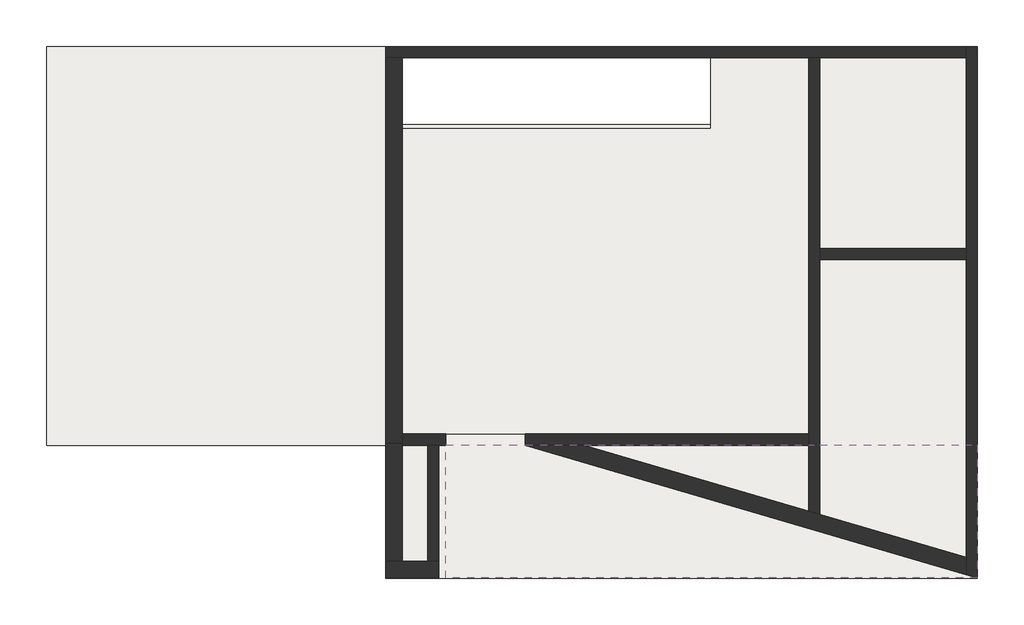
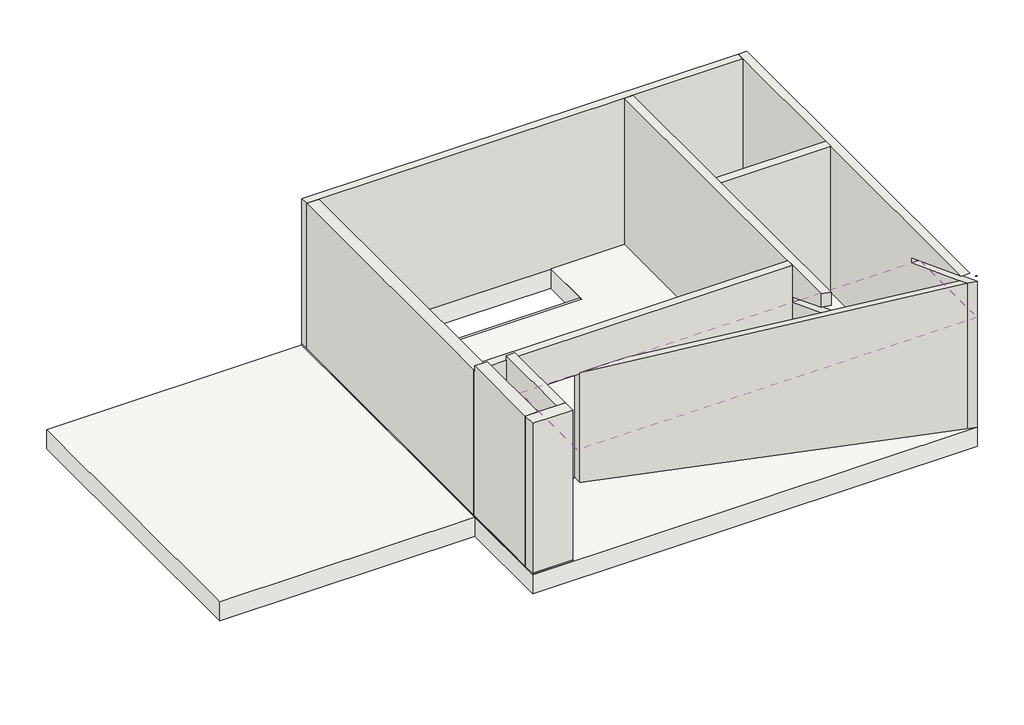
# One storey: 10 walls, 2 proxies, 2 slabs, 1 roof.
"""IFC4 building model written with IfcOpenShell, lengths in millimetres."""

from ifc_helpers import new_model, si_unit, frame, origin, place, context, project, spatial, polyline, outline, extrude, faceted_brep, element, save

model = new_model("IFC4")

# Units and contexts
model_context = context("Model", 3, world=origin())
ifc_project = project(units=[si_unit("LENGTHUNIT", "METRE", prefix="MILLI")], contexts=[model_context])

# Site, building, storey
site = spatial("IfcSite", under=ifc_project)
building = spatial("IfcBuilding", under=site)
storey = spatial("IfcBuildingStorey", under=building, Name="PÁV. SUPERIOR", Elevation=3300.0)

# Proxies
placement = place(None, origin())
element("IfcBuildingElementProxy", 1, Name="FRISO 01", ObjectType="FRISO 01", at=placement, inside=storey, context=model_context, shape_type="SweptSolid", body=[
    extrude(outline(polyline([(-8440.3900469, -5233.9118273), (-8425.3900469, -5218.9118273), (-7655.3900469, -5218.9118273), (-7640.3900469, -5233.9118273), (-8440.3900469, -5233.9118273)])), frame((0.0, 0.0, 3300.0), z_axis=(0.0, 0.0, 1.0), x_axis=(1.0, 0.0, 0.0)), (0.0, 0.0, 1.0), 30.0),
    extrude(outline(polyline([(-7640.3900469, -5233.9118273), (-7655.3900469, -5218.9118273), (-7655.3900469, -3233.9118273), (-7640.3900469, -3233.9118273), (-7640.3900469, -5233.9118273)])), frame((0.0, 0.0, 3300.0), z_axis=(0.0, 0.0, 1.0), x_axis=(1.0, 0.0, 0.0)), (0.0, 0.0, 1.0), 30.0),
])
element("IfcBuildingElementProxy", 2, Name="FRISO 01", ObjectType="FRISO 01", at=placement, inside=storey, context=model_context, shape_type="SweptSolid", body=[
    extrude(outline(polyline([(-8425.3900469, -5218.9118273), (-8440.3900469, -5233.9118273), (-8440.3900469, -3203.9118273), (-8425.3900469, -3203.9118273), (-8425.3900469, -5218.9118273)])), frame((0.0, 0.0, 3300.0), z_axis=(0.0, 0.0, 1.0), x_axis=(1.0, 0.0, 0.0)), (0.0, 0.0, 1.0), 30.0),
    extrude(outline(polyline([(-8425.3900469, -3203.9118273), (-8440.3900469, -3203.9118273), (-8440.3900469, 2766.0881727), (-8425.3900469, 2766.0881727), (-8425.3900469, -3203.9118273)])), frame((0.0, 0.0, 3300.0), z_axis=(0.0, 0.0, 1.0), x_axis=(1.0, 0.0, 0.0)), (0.0, 0.0, 1.0), 30.0),
])

# Roof
element("IfcRoof", 3, ObjectType="Telha Termoacústica", at=placement, inside=storey, context=model_context, shape_type="Brep", body=[
    faceted_brep([(-7541.5118355, -5233.9118273, 6500.0), (-7541.5118355, -3233.9118273, 5730.0), (-7541.5118355, -3233.9118273, 5622.8447388), (-7541.5118355, -5233.9118273, 6392.8447388), (458.4881645, -5233.9118273, 6500.0), (458.4881645, -5233.9118273, 6392.8447388), (458.4881645, -5232.888062, 6392.4505892), (458.4881645, -3233.9118273, 5622.8447388), (458.4881645, -3233.9118273, 5730.0), (458.4881645, -4974.1715676, 6400.0), (458.4881645, -5222.323709, 6400.0), (458.4881645, -5222.323709, 6495.5385744), (458.4881645, -5232.888062, 6499.6058503), (422.5568971, -5222.323709, 6495.5385744), (-7540.3900469, -5222.323709, 6495.5385744), (-7540.3900469, -4974.1715676, 6400.0), (288.4881645, -4974.1715676, 6400.0), (288.4881645, -3233.9118273, 5730.0), (-1911.5118355, -3233.9118273, 5730.0), (-2081.5118355, -3233.9118273, 5730.0), (-6340.3900469, -3233.9118273, 5622.8447388), (-5454.1047463, -3233.9118273, 5622.8447388), (-2081.5118355, -3233.9118273, 5622.8447388), (-1911.5118355, -3233.9118273, 5622.8447388), (288.4881645, -3233.9118273, 5622.8447388), (-7540.3900469, -5222.323709, 6400.0)], [[[0, 1, 2, 3]], [[4, 5, 6, 7, 8, 9, 10, 11, 12]], [[1, 0, 4, 12, 11, 13, 14, 15, 16, 9, 8, 17, 18, 19]], [[5, 4, 0, 3]], [[7, 6, 5, 3, 2, 20, 21, 22, 23, 24]], [[8, 7, 24, 23, 22, 21, 20, 2, 1, 19, 18, 17]], [[25, 10, 9, 16, 15]], [[10, 25, 14, 13, 11]], [[25, 15, 14]]]),
])

# Slabs
element("IfcSlab", 4, ObjectType="Piso Interno - 20cm", at=placement, inside=storey, context=model_context, shape_type="Brep", body=[
    faceted_brep([(458.4881645, 2766.0881727, 2900.0), (458.4881645, -3168.0556256, 2900.0), (458.4881645, -5233.9118273, 2900.0), (-8440.3900469, -5233.9118273, 2900.0), (-8440.3900469, -3233.9118273, 2900.0), (-13541.5118355, -3233.9118273, 2900.0), (-13541.5118355, -3218.9118273, 2900.0), (-13541.5118355, 2596.0881727, 2900.0), (-13541.5118355, 2766.0881727, 2900.0), (288.4881645, 2766.0881727, 2900.0), (-8190.3900469, 1596.0881727, 2900.0), (-3721.5118355, 1596.0881727, 2900.0), (-3551.5118355, 1596.0881727, 2900.0), (-3551.5118355, 2596.0881727, 2900.0), (-8190.3900469, 2596.0881727, 2900.0), (458.4881645, 2766.0881727, 3300.0), (288.4881645, 2766.0881727, 3300.0), (-8425.3900469, 2766.0881727, 3300.0), (-13541.5118355, 2766.0881727, 3300.0), (-13541.5118355, -3233.9118273, 3300.0), (-8440.3900469, -3233.9118273, 3300.0), (-8440.3900469, -5233.9118273, 3300.0), (458.4881645, -5233.9118273, 3300.0), (458.4881645, -5232.888062, 3300.0), (-8190.3900469, 1596.0881727, 3300.0), (-8190.3900469, 2596.0881727, 3300.0), (-3551.5118355, 2596.0881727, 3300.0), (-3551.5118355, 1596.0881727, 3300.0), (-3551.5118355, 1596.0881727, 3100.0), (-3551.5118355, 2596.0881727, 3100.0)], [[[0, 1, 2, 3, 4, 5, 6, 7, 8, 9], [10, 11, 12, 13, 14]], [[15, 16, 17, 18, 19, 20, 21, 22, 23], [24, 25, 26, 27]], [[2, 1, 0, 15, 23, 22]], [[3, 2, 22, 21]], [[4, 3, 21, 20]], [[0, 9, 8, 18, 17, 16, 15]], [[5, 4, 20, 19]], [[8, 7, 6, 5, 19, 18]], [[12, 11, 10, 24, 27, 28]], [[13, 12, 28, 27, 26, 29]], [[14, 13, 29, 26, 25]], [[10, 14, 25, 24]]]),
])
element("IfcSlab", 5, ObjectType="Porcelanato - 1cm", at=placement, inside=storey, context=model_context, shape_type="SweptSolid", body=[
    extrude(outline(polyline([(-3551.5118355, 1531.0881727), (-3551.5118355, 2596.0881727), (288.4881645, 2596.0881727), (288.4881645, -4922.323709), (-1911.5118355, -4275.4893961), (-1911.5118355, -3063.9118273), (-8190.3900469, -3063.9118273), (-8190.3900469, 1531.0881727), (-3551.5118355, 1531.0881727)])), frame((0.0, 0.0, 3300.0), z_axis=(0.0, 0.0, 1.0), x_axis=(1.0, 0.0, 0.0)), (0.0, 0.0, 1.0), 10.0),
])

# Walls
element("IfcWall", 6, ObjectType="Parede Interna - 17 cm - Pintura", at=placement, inside=storey, context=model_context, shape_type="Brep", body=[
    faceted_brep([(-6340.3900469, -3233.9118273, 3300.0), (-5454.1047463, -3233.9118273, 3300.0), (-2081.5118355, -3233.9118273, 3300.0), (-2081.5118355, -3233.9118273, 5622.8447388), (-2081.5118355, -3233.9118273, 5730.0), (-2081.5118355, -3233.9118273, 6400.0), (-7540.3900469, -3233.9118273, 6400.0), (-7810.3900469, -3233.9118273, 6400.0), (-8190.3900469, -3233.9118273, 6400.0), (-8190.3900469, -3233.9118273, 3300.0), (-7810.3900469, -3233.9118273, 3300.0), (-7655.3900469, -3233.9118273, 3300.0), (-7540.3900469, -3233.9118273, 3300.0), (-7540.3900469, -3233.9118273, 5600.0), (-6340.3900469, -3233.9118273, 5600.0), (-2081.5118355, -3063.9118273, 3300.0), (-6340.3900469, -3063.9118273, 3300.0), (-6340.3900469, -3063.9118273, 5600.0), (-7540.3900469, -3063.9118273, 5600.0), (-7540.3900469, -3063.9118273, 3300.0), (-8190.3900469, -3063.9118273, 3300.0), (-8190.3900469, -3063.9118273, 6400.0), (-2081.5118355, -3063.9118273, 6400.0), (-8190.3900469, -3203.9118273, 3300.0)], [[[0, 1, 2, 3, 4, 5, 6, 7, 8, 9, 10, 11, 12, 13, 14]], [[15, 16, 17, 18, 19, 20, 21, 22]], [[2, 1, 0, 16, 15]], [[12, 11, 10, 9, 23, 20, 19]], [[14, 17, 16, 0]], [[17, 14, 13, 18]], [[18, 13, 12, 19]], [[8, 7, 6, 5, 22, 21]], [[20, 23, 9, 8, 21]], [[2, 15, 22, 5, 4, 3]]]),
])
element("IfcWall", 7, ObjectType="Parede Interna - 17 cm - Pintura", at=placement, inside=storey, context=model_context, shape_type="Brep", body=[
    faceted_brep([(458.4881645, -5232.888062, 3300.0), (458.4881645, 2766.0881727, 3300.0), (458.4881645, 2766.0881727, 6400.0), (458.4881645, -4974.1715676, 6400.0), (458.4881645, -3233.9118273, 5730.0), (458.4881645, -3233.9118273, 5622.8447388), (458.4881645, -5232.888062, 6392.4505892), (288.4881645, 2766.0881727, 3300.0), (288.4881645, 2596.0881727, 3300.0), (288.4881645, -273.9118273, 3300.0), (288.4881645, -443.9118273, 3300.0), (288.4881645, -4922.323709, 3300.0), (288.4881645, -5182.9054105, 3300.0), (288.4881645, -5182.9054105, 6373.2072683), (288.4881645, -4922.5257296, 6272.9610912), (288.4881645, -3233.9118273, 5622.8447388), (288.4881645, -3233.9118273, 5730.0), (288.4881645, -4974.1715676, 6400.0), (288.4881645, -443.9118273, 6400.0), (288.4881645, -273.9118273, 6400.0), (288.4881645, 2596.0881727, 6400.0), (288.4881645, 2766.0881727, 6400.0)], [[[0, 1, 2, 3, 4, 5, 6]], [[7, 8, 9, 10, 11, 12, 13, 14, 15, 16, 17, 18, 19, 20, 21]], [[1, 0, 12, 11, 10, 9, 8, 7]], [[1, 7, 21, 2]], [[12, 0, 6, 13]], [[16, 4, 3, 17]], [[5, 15, 14, 13, 6]], [[4, 16, 15, 5]], [[3, 2, 21, 20, 19, 18, 17]]]),
    faceted_brep([(458.4881645, -5232.888062, 6500.0), (458.4881645, -5232.888062, 6499.6058503), (458.4881645, -5222.323709, 6495.5385744), (458.4881645, -5222.323709, 6500.0), (422.5568971, -5222.323709, 6500.0), (422.5568971, -5222.323709, 6495.5385744)], [[[0, 1, 2, 3]], [[0, 3, 4]], [[1, 0, 4, 5]], [[2, 1, 5]], [[3, 2, 5, 4]]]),
])
element("IfcWall", 8, ObjectType="Parede Interna - 17 cm - Pintura", at=placement, inside=storey, context=model_context, shape_type="Brep", body=[
    faceted_brep([(288.4881645, 2766.0881727, 3300.0), (-8425.3900469, 2766.0881727, 3300.0), (-8425.3900469, 2766.0881727, 3330.0), (-8440.3900469, 2766.0881727, 3330.0), (-8440.3900469, 2766.0881727, 6400.0), (288.4881645, 2766.0881727, 6400.0), (-8425.3900469, 2596.0881727, 3300.0), (-8190.3900469, 2596.0881727, 3300.0), (-3551.5118355, 2596.0881727, 3300.0), (-2081.5118355, 2596.0881727, 3300.0), (-1911.5118355, 2596.0881727, 3300.0), (288.4881645, 2596.0881727, 3300.0), (288.4881645, 2596.0881727, 6400.0), (-1911.5118355, 2596.0881727, 6400.0), (-2081.5118355, 2596.0881727, 6400.0), (-8190.3900469, 2596.0881727, 6400.0), (-8440.3900469, 2596.0881727, 6400.0), (-8440.3900469, 2596.0881727, 3330.0), (-8425.3900469, 2596.0881727, 3330.0)], [[[0, 1, 2, 3, 4, 5]], [[6, 7, 8, 9, 10, 11, 12, 13, 14, 15, 16, 17, 18]], [[0, 11, 10, 9, 8, 7, 6, 1]], [[11, 0, 5, 12]], [[3, 17, 16, 4]], [[5, 4, 16, 15, 14, 13, 12]], [[18, 2, 1, 6]], [[2, 18, 17, 3]]]),
])
element("IfcWall", 9, ObjectType="Parede Interna - 17 cm - Pintura", at=placement, inside=storey, context=model_context, shape_type="Brep", body=[
    faceted_brep([(-7640.3900469, -3233.9118273, 6500.0), (-7640.3900469, -4983.9118273, 6500.0), (-7640.3900469, -4983.9118273, 3330.0), (-7640.3900469, -3233.9118273, 3330.0), (-7640.3900469, -3233.9118273, 6400.0), (-7810.3900469, -3233.9118273, 3300.0), (-7810.3900469, -4983.9118273, 3300.0), (-7810.3900469, -4983.9118273, 6400.0), (-7810.3900469, -4983.9118273, 6500.0), (-7810.3900469, -3233.9118273, 6500.0), (-7810.3900469, -3233.9118273, 6400.0), (-7655.3900469, -3233.9118273, 3300.0), (-7655.3900469, -4983.9118273, 3300.0), (-7655.3900469, -4983.9118273, 3330.0), (-7655.3900469, -3233.9118273, 3330.0)], [[[0, 1, 2, 3, 4]], [[5, 6, 7, 8, 9, 10]], [[6, 5, 11, 12]], [[1, 0, 9, 8]], [[1, 8, 7, 6, 12, 13, 2]], [[13, 14, 3, 2]], [[14, 13, 12, 11]], [[9, 0, 4, 3, 14, 11, 5, 10]]]),
])
element("IfcWall", 10, ObjectType="Parede Interna - 17 cm - Pintura", at=placement, inside=storey, context=model_context, shape_type="Brep", body=[
    faceted_brep([(-1911.5118355, -4275.4893961, 3300.0), (-1911.5118355, -443.9118273, 3300.0), (-1911.5118355, -273.9118273, 3300.0), (-1911.5118355, 2596.0881727, 3300.0), (-1911.5118355, 2596.0881727, 6400.0), (-1911.5118355, -273.9118273, 6400.0), (-1911.5118355, -443.9118273, 6400.0), (-1911.5118355, -4275.4893961, 6400.0), (-1911.5118355, -4275.4893961, 6131.007364), (-1911.5118355, -3233.9118273, 5730.0), (-1911.5118355, -3233.9118273, 5622.8447388), (-1911.5118355, -4275.4893961, 6023.8521028), (-2081.5118355, 2596.0881727, 3300.0), (-2081.5118355, -3063.9118273, 3300.0), (-2081.5118355, -3233.9118273, 3300.0), (-2081.5118355, -4225.5067446, 3300.0), (-2081.5118355, -4225.5067446, 6004.608782), (-2081.5118355, -3233.9118273, 5622.8447388), (-2081.5118355, -3233.9118273, 5730.0), (-2081.5118355, -4225.5067446, 6111.7640432), (-2081.5118355, -4225.5067446, 6400.0), (-2081.5118355, -3233.9118273, 6400.0), (-2081.5118355, -3063.9118273, 6400.0), (-2081.5118355, 2596.0881727, 6400.0), (-2081.5118355, 2596.0881727, 5150.0), (-2081.5118355, 2596.0881727, 3950.0)], [[[0, 1, 2, 3, 4, 5, 6, 7, 8, 9, 10, 11]], [[12, 13, 14, 15, 16, 17, 18, 19, 20, 21, 22, 23, 24, 25]], [[3, 2, 1, 0, 15, 14, 13, 12]], [[3, 12, 25, 24, 23, 4]], [[15, 0, 11, 16]], [[7, 20, 19, 8]], [[7, 6, 5, 4, 23, 22, 21, 20]], [[18, 9, 8, 19]], [[10, 17, 16, 11]], [[9, 18, 17, 10]]]),
])
element("IfcWall", 11, ObjectType="Parede Interna - 17 cm - Pintura", at=placement, inside=storey, context=model_context, shape_type="SweptSolid", body=[
    extrude(outline(polyline([(288.4881645, -443.9118273), (-1911.5118355, -443.9118273), (-1911.5118355, -273.9118273), (288.4881645, -273.9118273), (288.4881645, -443.9118273)])), frame((0.0, 0.0, 3300.0), z_axis=(0.0, 0.0, 1.0), x_axis=(1.0, 0.0, 0.0)), (0.0, 0.0, 1.0), 3100.0),
])
element("IfcWall", 12, ObjectType="Parede Pilar - 25cm - Pintura", at=placement, inside=storey, context=model_context, shape_type="Brep", body=[
    faceted_brep([(-7640.3900469, -5233.9118273, 6500.0), (-8440.3900469, -5233.9118273, 6500.0), (-8440.3900469, -5233.9118273, 3330.0), (-7640.3900469, -5233.9118273, 3330.0), (-8440.3900469, -4983.9118273, 3330.0), (-8440.3900469, -4983.9118273, 6500.0), (-8190.3900469, -4983.9118273, 6500.0), (-7810.3900469, -4983.9118273, 6500.0), (-7640.3900469, -4983.9118273, 6500.0), (-7640.3900469, -4983.9118273, 3330.0), (-7655.3900469, -4983.9118273, 3330.0), (-7655.3900469, -4983.9118273, 3300.0), (-7810.3900469, -4983.9118273, 3300.0), (-8190.3900469, -4983.9118273, 3300.0), (-8425.3900469, -4983.9118273, 3300.0), (-8425.3900469, -4983.9118273, 3330.0), (-7655.3900469, -5218.9118273, 3300.0), (-8425.3900469, -5218.9118273, 3300.0), (-8425.3900469, -5218.9118273, 3330.0), (-7655.3900469, -5218.9118273, 3330.0)], [[[0, 1, 2, 3]], [[4, 5, 6, 7, 8, 9, 10, 11, 12, 13, 14, 15]], [[16, 17, 14, 13, 12, 11]], [[1, 0, 8, 7, 6, 5]], [[1, 5, 4, 2]], [[18, 17, 16, 19]], [[18, 19, 10, 9, 3, 2, 4, 15]], [[17, 18, 15, 14]], [[19, 16, 11, 10]], [[8, 0, 3, 9]]]),
])
element("IfcWall", 13, ObjectType="Parede Pilar - 25cm - Pintura", at=placement, inside=storey, context=model_context, shape_type="Brep", body=[
    faceted_brep([(-8190.3900469, -4983.9118273, 3300.0), (-8190.3900469, -3203.9118273, 3300.0), (-8190.3900469, -3203.9118273, 6400.0), (-8190.3900469, -3233.9118273, 6400.0), (-8190.3900469, -3233.9118273, 6500.0), (-8190.3900469, -4983.9118273, 6500.0), (-8190.3900469, -4983.9118273, 6400.0), (-8440.3900469, -4983.9118273, 3330.0), (-8440.3900469, -4983.9118273, 6500.0), (-8440.3900469, -3233.9118273, 6500.0), (-8440.3900469, -3233.9118273, 6400.0), (-8440.3900469, -3203.9118273, 6400.0), (-8440.3900469, -3203.9118273, 3330.0), (-8425.3900469, -4983.9118273, 3300.0), (-8425.3900469, -3203.9118273, 3300.0), (-8425.3900469, -3203.9118273, 3330.0), (-8425.3900469, -4983.9118273, 3330.0)], [[[0, 1, 2, 3, 4, 5, 6]], [[7, 8, 9, 10, 11, 12]], [[1, 0, 13, 14]], [[1, 14, 15, 12, 11, 2]], [[8, 5, 4, 9]], [[5, 8, 7, 16, 13, 0, 6]], [[13, 16, 15, 14]], [[7, 12, 15, 16]], [[10, 3, 2, 11]], [[3, 10, 9, 4]]]),
])
element("IfcWall", 14, ObjectType="Parede Pilar - 25cm - Pintura", at=placement, inside=storey, context=model_context, shape_type="Brep", body=[
    faceted_brep([(288.4881645, -4922.323709, 3300.0), (-1911.5118355, -4275.4893961, 3300.0), (-2081.5118355, -4225.5067446, 3300.0), (-5454.1047463, -3233.9118273, 3300.0), (-5454.1047463, -3233.9118273, 5622.8447388), (-2081.5118355, -4225.5067446, 6004.608782), (-1911.5118355, -4275.4893961, 6023.8521028), (288.4881645, -4922.323709, 6272.8833132), (288.4881645, -5182.9054105, 3300.0), (288.4881645, -5182.9054105, 6373.2072683), (-6340.3900469, -3233.9118273, 5622.8447388), (-6340.3900469, -3233.9118273, 3300.0), (288.4881645, -4922.5257296, 6272.9610912)], [[[0, 1, 2, 3, 4, 5, 6, 7]], [[8, 9, 10, 11]], [[3, 2, 1, 0, 8, 11]], [[0, 7, 12, 9, 8]], [[7, 6, 5, 4, 10, 9, 12]], [[4, 3, 11, 10]]]),
])
element("IfcWall", 15, ObjectType="Parede Pilar - 25cm - Pintura", at=placement, inside=storey, context=model_context, shape_type="Brep", body=[
    faceted_brep([(-8190.3900469, -3203.9118273, 3300.0), (-8190.3900469, -3063.9118273, 3300.0), (-8190.3900469, 2596.0881727, 3300.0), (-8190.3900469, 2596.0881727, 6400.0), (-8190.3900469, -3063.9118273, 6400.0), (-8190.3900469, -3203.9118273, 6400.0), (-8440.3900469, 2596.0881727, 3330.0), (-8440.3900469, -3203.9118273, 3330.0), (-8440.3900469, -3203.9118273, 6400.0), (-8440.3900469, 2596.0881727, 6400.0), (-8425.3900469, -3203.9118273, 3300.0), (-8425.3900469, 2596.0881727, 3300.0), (-8425.3900469, -3203.9118273, 3330.0), (-8425.3900469, 2596.0881727, 3330.0)], [[[0, 1, 2, 3, 4, 5]], [[6, 7, 8, 9]], [[2, 1, 0, 10, 11]], [[10, 0, 5, 8, 7, 12]], [[2, 11, 13, 6, 9, 3]], [[12, 13, 11, 10]], [[13, 12, 7, 6]], [[5, 4, 3, 9, 8]]]),
])

save(model, "model.ifc")
